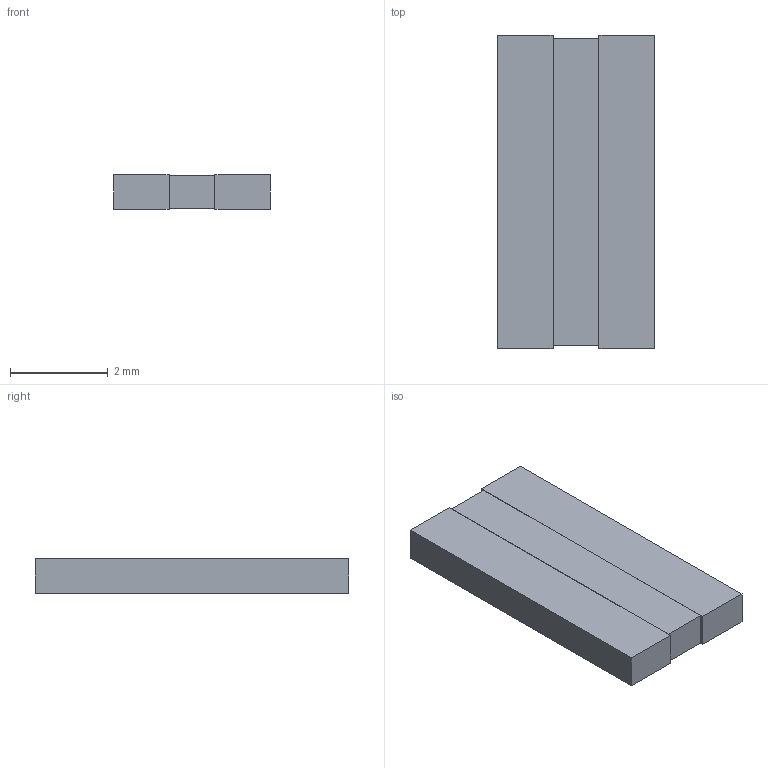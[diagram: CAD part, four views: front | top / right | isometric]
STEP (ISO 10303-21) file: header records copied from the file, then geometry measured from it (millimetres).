
FILE_DESCRIPTION(('FreeCAD Model'),'2;1');
FILE_NAME('/var/www/3D/0T/19604132.1.1.stp','2025-09-19T05:24:29',( 'Author'),(''),'Open CASCADE STEP processor 6.9','FreeCAD','Unknown' );
FILE_SCHEMA(('AUTOMOTIVE_DESIGN { 1 0 10303 214 1 1 1 1 }'));
Length unit declared in the file: millimetre
Products named in the file (4): ASSEMBLY; term1; term2; body
Assembly tree (3 placements, depth 2):
  ASSEMBLY
    term1
    term2
    body
Bounding box: 3.2 x 6.4 x 0.7 mm (x, y, z)
Volume: 14.2 mm3; surface area: 71.7 mm2
Topology: 3 solids, 3 shells, 18 faces, 36 edges, 24 vertices
Faces by surface type: plane 18
Entity records: 1020 total; most frequent: CARTESIAN_POINT 154, DIRECTION 152, LINE 108, VECTOR 108, ORIENTED_EDGE 72, PCURVE 72, DEFINITIONAL_REPRESENTATION 72, EDGE_CURVE 36
